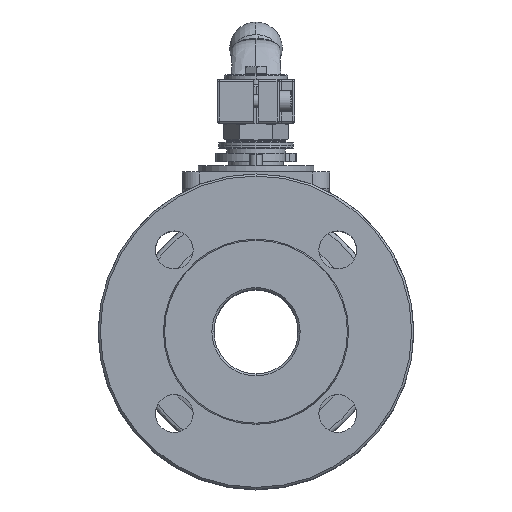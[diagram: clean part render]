
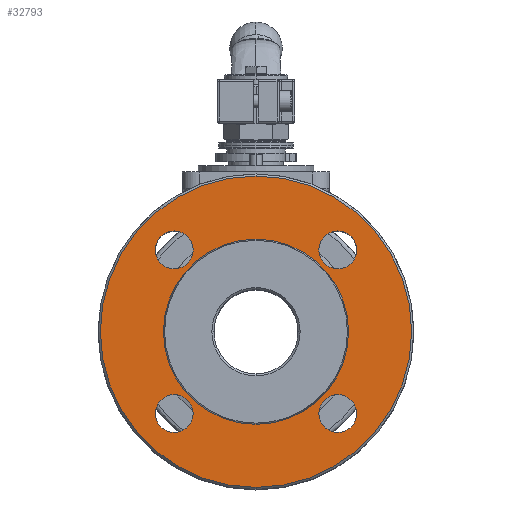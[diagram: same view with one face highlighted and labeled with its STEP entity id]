
A CAD part, top view. The second image highlights one B-rep face of the part: STEP entity #32793.
In plain terms, the highlighted planar face has unit normal (0, 0, 1) as drawn and (0, -1, 0) by its records, which use the part's own axes.
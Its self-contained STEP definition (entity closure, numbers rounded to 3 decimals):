
#639 = EDGE_CURVE ( 'NONE', #29298, #10159, #21174, .T. ) ;
#1619 = CARTESIAN_POINT ( 'NONE',  ( -38.891, -43.5, 36.891 ) ) ;
#1794 = EDGE_CURVE ( 'NONE', #13619, #28605, #32161, .T. ) ;
#2936 = CIRCLE ( 'NONE', #31006, 9. ) ;
#2950 = CARTESIAN_POINT ( 'NONE',  ( 38.891, -43.5, -31.891 ) ) ;
#3063 = CIRCLE ( 'NONE', #41531, 44. ) ;
#3473 = DIRECTION ( 'NONE',  ( 0., 1., 0. ) ) ;
#3766 = DIRECTION ( 'NONE',  ( 0., 0., 1. ) ) ;
#3961 = DIRECTION ( 'NONE',  ( 0., 0., 1. ) ) ;
#4396 = FACE_BOUND ( 'NONE', #41276, .T. ) ;
#4740 = CARTESIAN_POINT ( 'NONE',  ( 38.891, -43.5, 36.891 ) ) ;
#4757 = EDGE_CURVE ( 'NONE', #28605, #13619, #30517, .T. ) ;
#4848 = VERTEX_POINT ( 'NONE', #22988 ) ;
#5102 = ORIENTED_EDGE ( 'NONE', *, *, #4757, .T. ) ;
#5385 = AXIS2_PLACEMENT_3D ( 'NONE', #16150, #42780, #22845 ) ;
#5435 = FACE_BOUND ( 'NONE', #15240, .T. ) ;
#6133 = ORIENTED_EDGE ( 'NONE', *, *, #1794, .T. ) ;
#6547 = CARTESIAN_POINT ( 'NONE',  ( 0., -43.5, -76. ) ) ;
#6595 = ORIENTED_EDGE ( 'NONE', *, *, #12359, .T. ) ;
#6637 = EDGE_CURVE ( 'NONE', #10159, #29298, #3063, .T. ) ;
#6669 = CARTESIAN_POINT ( 'NONE',  ( -38.891, -43.5, -40.891 ) ) ;
#6859 = DIRECTION ( 'NONE',  ( 0., 0., 1. ) ) ;
#8289 = DIRECTION ( 'NONE',  ( 0., -1., 0. ) ) ;
#8942 = ORIENTED_EDGE ( 'NONE', *, *, #40219, .T. ) ;
#9013 = FACE_BOUND ( 'NONE', #31453, .T. ) ;
#9041 = CARTESIAN_POINT ( 'NONE',  ( 0., -43.5, -2. ) ) ;
#9050 = FACE_OUTER_BOUND ( 'NONE', #20280, .T. ) ;
#10004 = DIRECTION ( 'NONE',  ( 0., 1., 0. ) ) ;
#10159 = VERTEX_POINT ( 'NONE', #37903 ) ;
#11294 = CIRCLE ( 'NONE', #16045, 74. ) ;
#11485 = CARTESIAN_POINT ( 'NONE',  ( 0., -43.5, -61.5 ) ) ;
#12359 = EDGE_CURVE ( 'NONE', #4848, #12981, #29129, .T. ) ;
#12432 = DIRECTION ( 'NONE',  ( 0., 1., 0. ) ) ;
#12674 = DIRECTION ( 'NONE',  ( 0., 0., 1. ) ) ;
#12981 = VERTEX_POINT ( 'NONE', #16446 ) ;
#13619 = VERTEX_POINT ( 'NONE', #31271 ) ;
#13693 = CARTESIAN_POINT ( 'NONE',  ( 0., -43.5, -2. ) ) ;
#13793 = DIRECTION ( 'NONE',  ( 0., 0., 1. ) ) ;
#14080 = AXIS2_PLACEMENT_3D ( 'NONE', #25163, #12432, #38547 ) ;
#15096 = VERTEX_POINT ( 'NONE', #32648 ) ;
#15240 = EDGE_LOOP ( 'NONE', ( #21605, #25159 ) ) ;
#15702 = VERTEX_POINT ( 'NONE', #18342 ) ;
#16045 = AXIS2_PLACEMENT_3D ( 'NONE', #9041, #32661, #12674 ) ;
#16150 = CARTESIAN_POINT ( 'NONE',  ( -38.891, -43.5, 36.891 ) ) ;
#16334 = EDGE_CURVE ( 'NONE', #21981, #18231, #28965, .T. ) ;
#16446 = CARTESIAN_POINT ( 'NONE',  ( -38.891, -43.5, -49.891 ) ) ;
#16889 = EDGE_CURVE ( 'NONE', #18231, #21981, #20668, .T. ) ;
#17093 = DIRECTION ( 'NONE',  ( 0., 1., 0. ) ) ;
#17323 = AXIS2_PLACEMENT_3D ( 'NONE', #1619, #24954, #41692 ) ;
#17629 = ORIENTED_EDGE ( 'NONE', *, *, #639, .T. ) ;
#18208 = DIRECTION ( 'NONE',  ( 0., 0., -1. ) ) ;
#18231 = VERTEX_POINT ( 'NONE', #19750 ) ;
#18342 = CARTESIAN_POINT ( 'NONE',  ( 38.891, -43.5, 45.891 ) ) ;
#18499 = ORIENTED_EDGE ( 'NONE', *, *, #40906, .T. ) ;
#18719 = EDGE_CURVE ( 'NONE', #15096, #23251, #23706, .T. ) ;
#19750 = CARTESIAN_POINT ( 'NONE',  ( 38.891, -43.5, -49.891 ) ) ;
#19782 = DIRECTION ( 'NONE',  ( 0., 0., 1. ) ) ;
#20280 = EDGE_LOOP ( 'NONE', ( #24596, #39169 ) ) ;
#20668 = CIRCLE ( 'NONE', #40048, 9. ) ;
#21174 = CIRCLE ( 'NONE', #33665, 44. ) ;
#21273 = PLANE ( 'NONE',  #36802 ) ;
#21605 = ORIENTED_EDGE ( 'NONE', *, *, #16334, .T. ) ;
#21864 = ORIENTED_EDGE ( 'NONE', *, *, #35323, .T. ) ;
#21981 = VERTEX_POINT ( 'NONE', #2950 ) ;
#22845 = DIRECTION ( 'NONE',  ( 0., 0., 1. ) ) ;
#22988 = CARTESIAN_POINT ( 'NONE',  ( -38.891, -43.5, -31.891 ) ) ;
#23251 = VERTEX_POINT ( 'NONE', #6547 ) ;
#23349 = AXIS2_PLACEMENT_3D ( 'NONE', #29055, #42291, #41880 ) ;
#23580 = DIRECTION ( 'NONE',  ( 0., 1., 0. ) ) ;
#23706 = CIRCLE ( 'NONE', #23349, 74. ) ;
#24565 = DIRECTION ( 'NONE',  ( 0., 0., 1. ) ) ;
#24596 = ORIENTED_EDGE ( 'NONE', *, *, #18719, .T. ) ;
#24954 = DIRECTION ( 'NONE',  ( 0., 1., 0. ) ) ;
#25159 = ORIENTED_EDGE ( 'NONE', *, *, #16889, .T. ) ;
#25163 = CARTESIAN_POINT ( 'NONE',  ( 38.891, -43.5, -40.891 ) ) ;
#25812 = EDGE_LOOP ( 'NONE', ( #6133, #5102 ) ) ;
#26063 = DIRECTION ( 'NONE',  ( 0., 1., 0. ) ) ;
#27849 = FACE_BOUND ( 'NONE', #25812, .T. ) ;
#28140 = VERTEX_POINT ( 'NONE', #28525 ) ;
#28190 = DIRECTION ( 'NONE',  ( 0., 1., 0. ) ) ;
#28525 = CARTESIAN_POINT ( 'NONE',  ( 38.891, -43.5, 27.891 ) ) ;
#28605 = VERTEX_POINT ( 'NONE', #37529 ) ;
#28965 = CIRCLE ( 'NONE', #14080, 9. ) ;
#29001 = EDGE_CURVE ( 'NONE', #23251, #15096, #11294, .T. ) ;
#29055 = CARTESIAN_POINT ( 'NONE',  ( 0., -43.5, -2. ) ) ;
#29129 = CIRCLE ( 'NONE', #41335, 9. ) ;
#29298 = VERTEX_POINT ( 'NONE', #29890 ) ;
#29561 = DIRECTION ( 'NONE',  ( 0., 0., 1. ) ) ;
#29890 = CARTESIAN_POINT ( 'NONE',  ( 0., -43.5, -46. ) ) ;
#29984 = CARTESIAN_POINT ( 'NONE',  ( 0., -43.5, -2. ) ) ;
#30136 = EDGE_LOOP ( 'NONE', ( #36646, #17629 ) ) ;
#30476 = FACE_BOUND ( 'NONE', #30136, .T. ) ;
#30517 = CIRCLE ( 'NONE', #5385, 9. ) ;
#31006 = AXIS2_PLACEMENT_3D ( 'NONE', #6669, #23580, #19782 ) ;
#31271 = CARTESIAN_POINT ( 'NONE',  ( -38.891, -43.5, 45.891 ) ) ;
#31453 = EDGE_LOOP ( 'NONE', ( #8942, #18499 ) ) ;
#32161 = CIRCLE ( 'NONE', #17323, 9. ) ;
#32648 = CARTESIAN_POINT ( 'NONE',  ( 0., -43.5, 72. ) ) ;
#32661 = DIRECTION ( 'NONE',  ( 0., -1., 0. ) ) ;
#32793 = ADVANCED_FACE ( 'NONE', ( #9050, #5435, #4396, #27849, #9013, #30476 ), #21273, .T. ) ;
#33665 = AXIS2_PLACEMENT_3D ( 'NONE', #29984, #10004, #13793 ) ;
#35323 = EDGE_CURVE ( 'NONE', #12981, #4848, #2936, .T. ) ;
#35416 = AXIS2_PLACEMENT_3D ( 'NONE', #40025, #3473, #3766 ) ;
#36470 = AXIS2_PLACEMENT_3D ( 'NONE', #4740, #28190, #24565 ) ;
#36646 = ORIENTED_EDGE ( 'NONE', *, *, #6637, .T. ) ;
#36802 = AXIS2_PLACEMENT_3D ( 'NONE', #11485, #8289, #18208 ) ;
#36873 = DIRECTION ( 'NONE',  ( 0., 1., 0. ) ) ;
#37332 = CARTESIAN_POINT ( 'NONE',  ( 38.891, -43.5, -40.891 ) ) ;
#37529 = CARTESIAN_POINT ( 'NONE',  ( -38.891, -43.5, 27.891 ) ) ;
#37903 = CARTESIAN_POINT ( 'NONE',  ( 0., -43.5, 42. ) ) ;
#38547 = DIRECTION ( 'NONE',  ( 0., 0., 1. ) ) ;
#39169 = ORIENTED_EDGE ( 'NONE', *, *, #29001, .T. ) ;
#40025 = CARTESIAN_POINT ( 'NONE',  ( 38.891, -43.5, 36.891 ) ) ;
#40048 = AXIS2_PLACEMENT_3D ( 'NONE', #37332, #17093, #3961 ) ;
#40219 = EDGE_CURVE ( 'NONE', #15702, #28140, #41329, .T. ) ;
#40906 = EDGE_CURVE ( 'NONE', #28140, #15702, #42845, .T. ) ;
#41276 = EDGE_LOOP ( 'NONE', ( #6595, #21864 ) ) ;
#41329 = CIRCLE ( 'NONE', #36470, 9. ) ;
#41335 = AXIS2_PLACEMENT_3D ( 'NONE', #42639, #26063, #29561 ) ;
#41531 = AXIS2_PLACEMENT_3D ( 'NONE', #13693, #36873, #6859 ) ;
#41692 = DIRECTION ( 'NONE',  ( 0., 0., 1. ) ) ;
#41880 = DIRECTION ( 'NONE',  ( 0., 0., 1. ) ) ;
#42291 = DIRECTION ( 'NONE',  ( 0., -1., 0. ) ) ;
#42639 = CARTESIAN_POINT ( 'NONE',  ( -38.891, -43.5, -40.891 ) ) ;
#42780 = DIRECTION ( 'NONE',  ( 0., 1., 0. ) ) ;
#42845 = CIRCLE ( 'NONE', #35416, 9. ) ;
